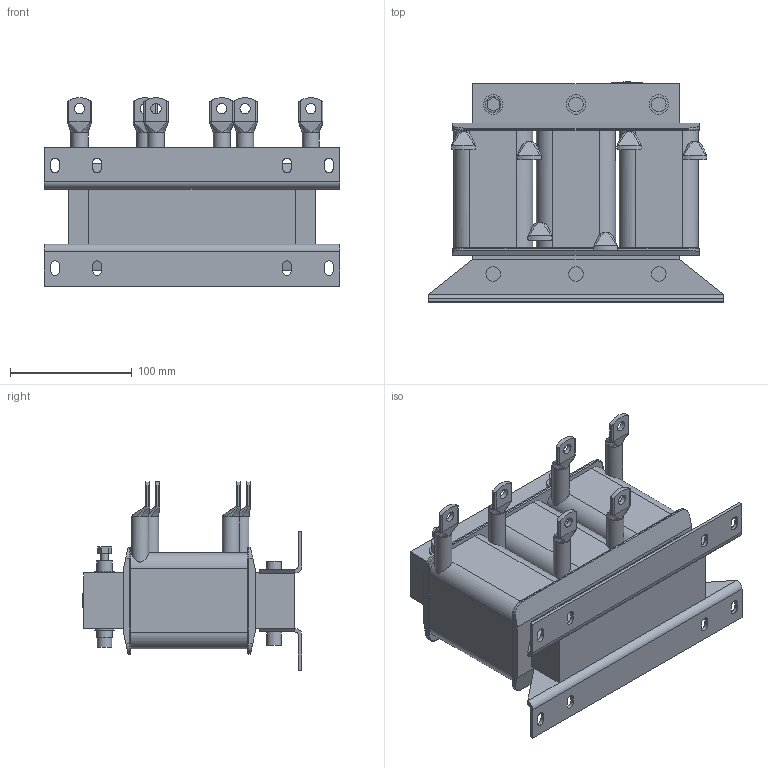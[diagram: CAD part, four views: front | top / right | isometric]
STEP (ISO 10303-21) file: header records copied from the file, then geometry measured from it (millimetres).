
FILE_DESCRIPTION (( 'STEP AP214' ), '1' );
FILE_NAME ('19Z1B03-1000.STEP', '2022-04-12T13:48:54', ( '' ), ( '' ), 'SwSTEP 2.0', 'SolidWorks 2019', '' );
FILE_SCHEMA (( 'AUTOMOTIVE_DESIGN' ));
Length unit declared in the file: millimetre
Products named in the file (1): 19Z1B03-1000
Bounding box: 243 x 180.72 x 154.95 mm (x, y, z)
Volume: 2273977.8 mm3; surface area: 211878 mm2
Topology: 1 solids, 1 shells, 354 faces, 914 edges, 582 vertices
Faces by surface type: plane 163, cylinder 122, bspline 61, torus 8
Full cylindrical faces by diameter (mm): 6 x1, 8.4 x6, 12 x10, 12.7 x2, 14 x6, 16 x6
Entity records: 15373 total; most frequent: CARTESIAN_POINT 7190, ORIENTED_EDGE 1742, DIRECTION 1386, EDGE_CURVE 871, VERTEX_POINT 570, AXIS2_PLACEMENT_3D 486, EDGE_LOOP 441, LINE 414
